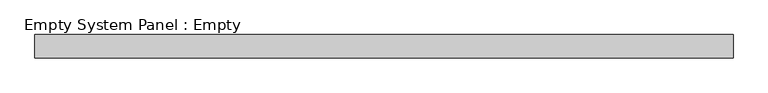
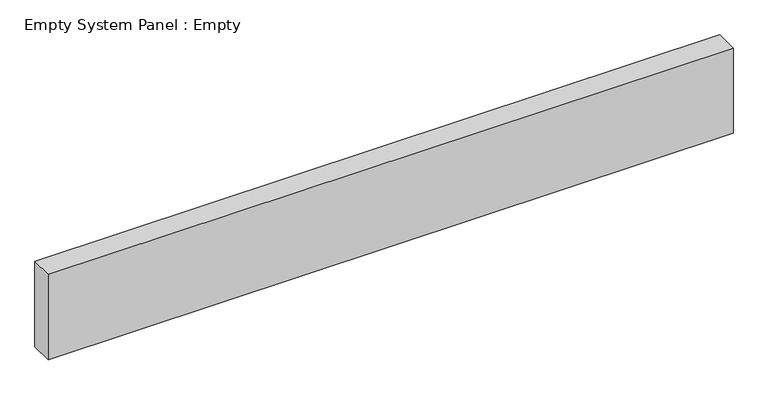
"""IFC4 building model written with IfcOpenShell, lengths in millimetres: plate geometry, Empty System Panel : Empty."""

from ifc_helpers import new_model, si_unit, origin, origin_with_axes, place, context, project, spatial, polyline, outline, extrude, source, transform, mapped, element, save


def empty_system_panel_empty_90f22c4b(model_context):
    return source(origin(), model_context, "Body", "SweptSolid", [
        extrude(outline(polyline([(1500.0, -50.0), (-1500.0, -50.0), (-1500.0, 50.0), (1500.0, 50.0), (1500.0, -50.0)])), origin_with_axes(), (0.0, 0.0, 1.0), 395.0),
    ])


if __name__ == "__main__":
    model = new_model("IFC4")
    model_context = context("Model", 3, world=origin())
    ifc_project = project(units=[si_unit("LENGTHUNIT", "METRE", prefix="MILLI")], contexts=[model_context])
    site = spatial("IfcSite", under=ifc_project)
    building = spatial("IfcBuilding", under=site)
    placement = place(None, origin())
    empty_system_panel_empty_shape = empty_system_panel_empty_90f22c4b(model_context)
    element("IfcPlate", 1, ObjectType="Empty System Panel : Empty", at=placement, inside=building, context=model_context, shape_type="MappedRepresentation", body=[
        mapped(empty_system_panel_empty_shape, transform((0.0, 0.0, 0.0), x_axis=(1.0, 0.0, 0.0), y_axis=(0.0, 1.0, 0.0), z_axis=(0.0, 0.0, 1.0))),
    ])
    save(model, "model.ifc")
